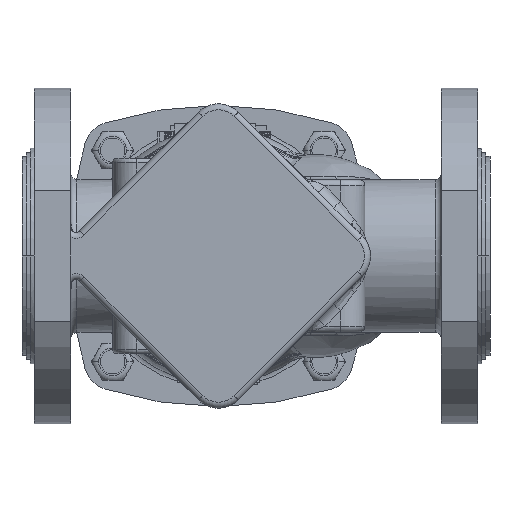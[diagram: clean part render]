
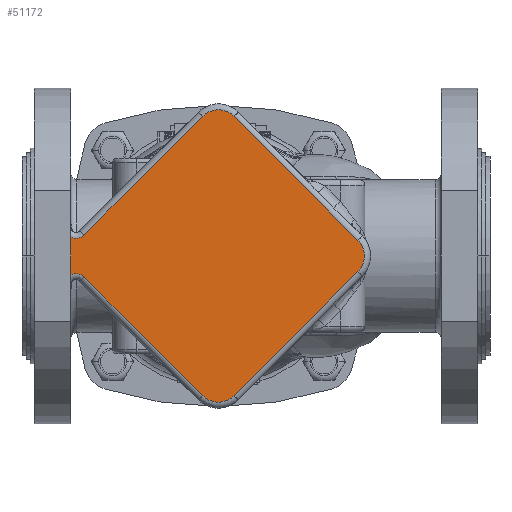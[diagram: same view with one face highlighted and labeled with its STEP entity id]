
A CAD part, front view. The second image highlights one B-rep face of the part: STEP entity #51172.
In plain terms, the highlighted planar face has unit normal (0, -1, 0).
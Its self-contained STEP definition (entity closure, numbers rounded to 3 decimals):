
#7548=CARTESIAN_POINT('',(-70.,-62.,14.146));
#7549=DIRECTION('',(0.,1.,0.));
#7550=DIRECTION('',(0.707,0.,-0.707));
#7551=AXIS2_PLACEMENT_3D('',#7548,#7549,#7550);
#7553=DIRECTION('',(-0.707,0.,-0.707));
#7554=VECTOR('',#7553,82.495);
#7555=CARTESIAN_POINT('',(-7.778,-62.,68.589));
#7556=LINE('',#7555,#7554);
#7557=CARTESIAN_POINT('',(0.,-62.,60.811));
#7558=DIRECTION('',(0.,-1.,0.));
#7559=DIRECTION('',(0.707,0.,0.707));
#7560=AXIS2_PLACEMENT_3D('',#7557,#7558,#7559);
#7562=DIRECTION('',(-0.707,0.,0.707));
#7563=VECTOR('',#7562,86.);
#7564=CARTESIAN_POINT('',(68.589,-62.,7.778));
#7565=LINE('',#7564,#7563);
#7566=CARTESIAN_POINT('',(60.811,-62.,0.));
#7567=DIRECTION('',(0.,-1.,0.));
#7568=DIRECTION('',(0.707,0.,-0.707));
#7569=AXIS2_PLACEMENT_3D('',#7566,#7567,#7568);
#7571=DIRECTION('',(0.707,0.,0.707));
#7572=VECTOR('',#7571,86.);
#7573=CARTESIAN_POINT('',(7.778,-62.,-68.589));
#7574=LINE('',#7573,#7572);
#7575=CARTESIAN_POINT('',(0.,-62.,-60.811));
#7576=DIRECTION('',(0.,-1.,0.));
#7577=DIRECTION('',(-0.707,0.,-0.707));
#7578=AXIS2_PLACEMENT_3D('',#7575,#7576,#7577);
#7580=DIRECTION('',(0.707,0.,-0.707));
#7581=VECTOR('',#7580,82.495);
#7582=CARTESIAN_POINT('',(-66.111,-62.,-10.257));
#7583=LINE('',#7582,#7581);
#7584=CARTESIAN_POINT('',(-70.,-62.,-14.146));
#7585=DIRECTION('',(0.,1.,0.));
#7586=DIRECTION('',(-0.455,0.,0.891));
#7587=AXIS2_PLACEMENT_3D('',#7584,#7585,#7586);
#7589=CARTESIAN_POINT('',(-72.5,-62.,9.247));
#7662=DIRECTION('',(0.,0.,1.));
#7663=VECTOR('',#7662,18.493);
#7664=CARTESIAN_POINT('',(-72.5,-62.,-9.247));
#7665=LINE('',#7664,#7663);
#8022=CARTESIAN_POINT('',(-72.5,-62.,-9.247));
#37186=VERTEX_POINT('',#8022);
#37187=VERTEX_POINT('',#7589);
#37336=CARTESIAN_POINT('',(-66.111,-62.,10.257));
#37337=VERTEX_POINT('',#37336);
#37338=CARTESIAN_POINT('',(-7.778,-62.,68.589));
#37339=VERTEX_POINT('',#37338);
#37342=CARTESIAN_POINT('',(7.778,-62.,68.589));
#37343=VERTEX_POINT('',#37342);
#37346=CARTESIAN_POINT('',(68.589,-62.,7.778));
#37347=VERTEX_POINT('',#37346);
#37348=CARTESIAN_POINT('',(68.589,-62.,-7.778));
#37349=VERTEX_POINT('',#37348);
#37354=CARTESIAN_POINT('',(7.778,-62.,-68.589));
#37355=VERTEX_POINT('',#37354);
#37356=CARTESIAN_POINT('',(-7.778,-62.,-68.589));
#37357=VERTEX_POINT('',#37356);
#37362=CARTESIAN_POINT('',(-66.111,-62.,-10.257));
#37363=VERTEX_POINT('',#37362);
#51146=CARTESIAN_POINT('',(0.,-62.,0.));
#51147=DIRECTION('',(0.,-1.,0.));
#51148=DIRECTION('',(-1.,0.,0.));
#51149=AXIS2_PLACEMENT_3D('',#51146,#51147,#51148);
#51150=PLANE('',#51149);
#51152=ORIENTED_EDGE('',*,*,#51151,.F.);
#51154=ORIENTED_EDGE('',*,*,#51153,.F.);
#51156=ORIENTED_EDGE('',*,*,#51155,.F.);
#51158=ORIENTED_EDGE('',*,*,#51157,.F.);
#51160=ORIENTED_EDGE('',*,*,#51159,.F.);
#51162=ORIENTED_EDGE('',*,*,#51161,.F.);
#51164=ORIENTED_EDGE('',*,*,#51163,.F.);
#51165=ORIENTED_EDGE('',*,*,#51136,.F.);
#51167=ORIENTED_EDGE('',*,*,#51166,.F.);
#51169=ORIENTED_EDGE('',*,*,#51168,.T.);
#51170=EDGE_LOOP('',(#51152,#51154,#51156,#51158,#51160,#51162,#51164,#51165,
#51167,#51169));
#51171=FACE_OUTER_BOUND('',#51170,.F.);
#51172=ADVANCED_FACE('',(#51171),#51150,.T.);
#7552=CIRCLE('',#7551,5.5);
#7561=CIRCLE('',#7560,11.);
#7570=CIRCLE('',#7569,11.);
#7579=CIRCLE('',#7578,11.);
#7588=CIRCLE('',#7587,5.5);
#51136=EDGE_CURVE('',#37363,#37357,#7583,.T.);
#51151=EDGE_CURVE('',#37337,#37187,#7552,.T.);
#51153=EDGE_CURVE('',#37339,#37337,#7556,.T.);
#51155=EDGE_CURVE('',#37343,#37339,#7561,.T.);
#51157=EDGE_CURVE('',#37347,#37343,#7565,.T.);
#51159=EDGE_CURVE('',#37349,#37347,#7570,.T.);
#51161=EDGE_CURVE('',#37355,#37349,#7574,.T.);
#51163=EDGE_CURVE('',#37357,#37355,#7579,.T.);
#51166=EDGE_CURVE('',#37186,#37363,#7588,.T.);
#51168=EDGE_CURVE('',#37186,#37187,#7665,.T.);
